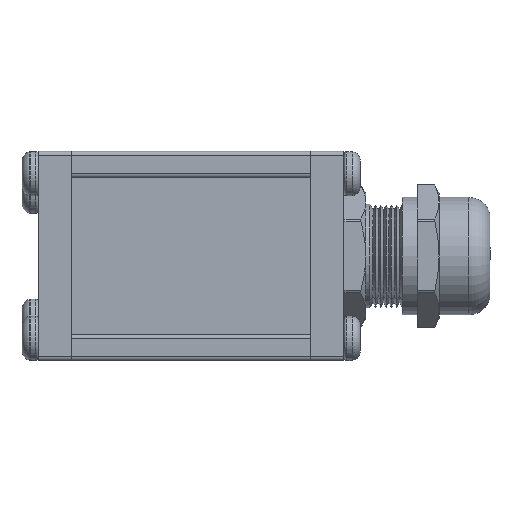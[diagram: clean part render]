
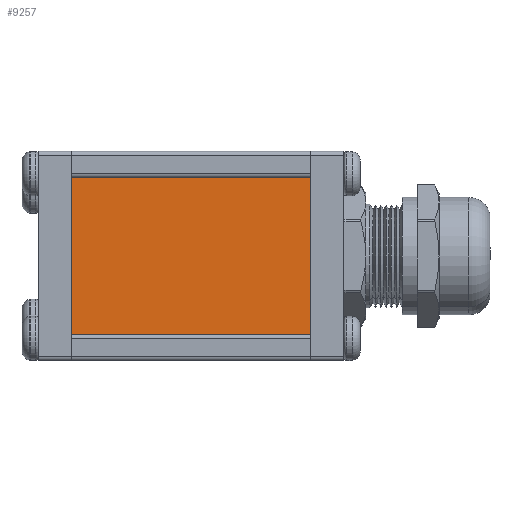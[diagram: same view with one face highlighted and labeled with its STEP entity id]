
A CAD part, top view. The second image highlights one B-rep face of the part: STEP entity #9257.
In plain terms, the highlighted planar face has unit normal (0, 0, 1) as drawn and (0, 1, 0) by its records, which use the part's own axes.
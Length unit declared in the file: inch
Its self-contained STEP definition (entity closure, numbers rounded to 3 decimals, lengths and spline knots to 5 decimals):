
#673 = EDGE_LOOP ( 'NONE', ( #1305, #20618, #6924, #11651 ) ) ;
#1142 = PLANE ( 'NONE',  #4373 ) ;
#1305 = ORIENTED_EDGE ( 'NONE', *, *, #16618, .T. ) ;
#1401 = CARTESIAN_POINT ( 'NONE',  ( 0.45, 0.03, -0.344 ) ) ;
#2574 = CARTESIAN_POINT ( 'NONE',  ( -0.45, 0.03, -0.344 ) ) ;
#2600 = EDGE_CURVE ( 'NONE', #12153, #8109, #9331, .T. ) ;
#3251 = DIRECTION ( 'NONE',  ( 0., 1., 0. ) ) ;
#3819 = DIRECTION ( 'NONE',  ( 0., 0., 1. ) ) ;
#4373 = AXIS2_PLACEMENT_3D ( 'NONE', #18870, #3251, #17807 ) ;
#5590 = EDGE_CURVE ( 'NONE', #13604, #14236, #11603, .T. ) ;
#6020 = LINE ( 'NONE', #1401, #13177 ) ;
#6924 = ORIENTED_EDGE ( 'NONE', *, *, #8518, .T. ) ;
#8109 = VERTEX_POINT ( 'NONE', #17868 ) ;
#8511 = CARTESIAN_POINT ( 'NONE',  ( -0.45, 0.03, 0.344 ) ) ;
#8518 = EDGE_CURVE ( 'NONE', #8109, #13604, #6020, .T. ) ;
#9257 = ADVANCED_FACE ( 'NONE', ( #9669 ), #1142, .T. ) ;
#9331 = LINE ( 'NONE', #17404, #19523 ) ;
#9669 = FACE_OUTER_BOUND ( 'NONE', #673, .T. ) ;
#9765 = CARTESIAN_POINT ( 'NONE',  ( 0.45, 0.03, -0.344 ) ) ;
#11598 = CARTESIAN_POINT ( 'NONE',  ( -0.45, 0.03, -0.344 ) ) ;
#11603 = LINE ( 'NONE', #2574, #17680 ) ;
#11651 = ORIENTED_EDGE ( 'NONE', *, *, #5590, .T. ) ;
#11755 = VECTOR ( 'NONE', #3819, 39.37008 ) ;
#12153 = VERTEX_POINT ( 'NONE', #8511 ) ;
#12559 = DIRECTION ( 'NONE',  ( -1., 0., 0. ) ) ;
#12820 = DIRECTION ( 'NONE',  ( 1., 0., 0. ) ) ;
#13177 = VECTOR ( 'NONE', #19344, 39.37008 ) ;
#13604 = VERTEX_POINT ( 'NONE', #9765 ) ;
#14236 = VERTEX_POINT ( 'NONE', #11598 ) ;
#16618 = EDGE_CURVE ( 'NONE', #14236, #12153, #16796, .T. ) ;
#16796 = LINE ( 'NONE', #20273, #11755 ) ;
#17404 = CARTESIAN_POINT ( 'NONE',  ( -0.45, 0.03, 0.344 ) ) ;
#17680 = VECTOR ( 'NONE', #12559, 39.37008 ) ;
#17807 = DIRECTION ( 'NONE',  ( 0., 0., 1. ) ) ;
#17868 = CARTESIAN_POINT ( 'NONE',  ( 0.45, 0.03, 0.344 ) ) ;
#18870 = CARTESIAN_POINT ( 'NONE',  ( -0.45, 0.03, 0.344 ) ) ;
#19344 = DIRECTION ( 'NONE',  ( 0., 0., -1. ) ) ;
#19523 = VECTOR ( 'NONE', #12820, 39.37008 ) ;
#20273 = CARTESIAN_POINT ( 'NONE',  ( -0.45, 0.03, -0.344 ) ) ;
#20618 = ORIENTED_EDGE ( 'NONE', *, *, #2600, .T. ) ;
